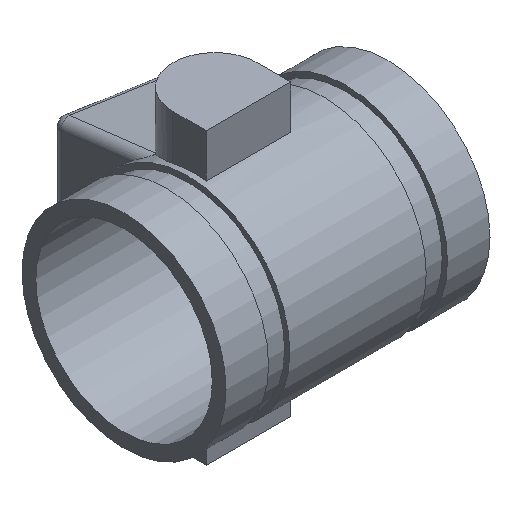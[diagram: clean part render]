
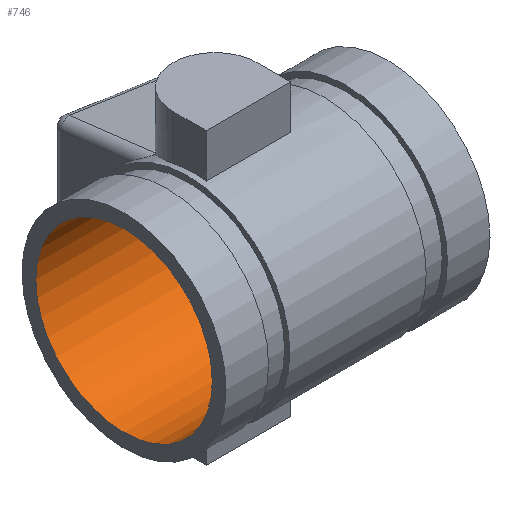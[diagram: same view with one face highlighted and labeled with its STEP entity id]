
A CAD part, isometric view. The second image highlights one B-rep face of the part: STEP entity #746.
In plain terms, the highlighted cylindrical face has radius 32.944 mm (diameter 65.888 mm), a full revolution.
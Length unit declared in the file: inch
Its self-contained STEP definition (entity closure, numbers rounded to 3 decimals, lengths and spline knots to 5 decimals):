
#89=LINE('',#1403,#127);
#127=VECTOR('',#1078,1.297);
#157=CYLINDRICAL_SURFACE('',#860,1.297);
#197=FACE_OUTER_BOUND('',#244,.T.);
#244=EDGE_LOOP('',(#655,#656,#657,#658,#659,#660));
#268=CIRCLE('',#828,1.297);
#269=CIRCLE('',#829,1.297);
#288=CIRCLE('',#858,1.297);
#289=CIRCLE('',#859,1.297);
#336=VERTEX_POINT('',#1343);
#337=VERTEX_POINT('',#1344);
#356=VERTEX_POINT('',#1398);
#357=VERTEX_POINT('',#1399);
#431=EDGE_CURVE('',#336,#337,#268,.T.);
#432=EDGE_CURVE('',#337,#336,#269,.T.);
#456=EDGE_CURVE('',#356,#357,#288,.T.);
#457=EDGE_CURVE('',#357,#356,#289,.T.);
#458=EDGE_CURVE('',#357,#337,#89,.T.);
#655=ORIENTED_EDGE('',*,*,#456,.T.);
#656=ORIENTED_EDGE('',*,*,#458,.T.);
#657=ORIENTED_EDGE('',*,*,#431,.F.);
#658=ORIENTED_EDGE('',*,*,#432,.F.);
#659=ORIENTED_EDGE('',*,*,#458,.F.);
#660=ORIENTED_EDGE('',*,*,#457,.T.);
#746=ADVANCED_FACE('',(#197),#157,.F.);
#828=AXIS2_PLACEMENT_3D('',#1345,#1007,#1008);
#829=AXIS2_PLACEMENT_3D('',#1346,#1009,#1010);
#858=AXIS2_PLACEMENT_3D('',#1400,#1072,#1073);
#859=AXIS2_PLACEMENT_3D('',#1401,#1074,#1075);
#860=AXIS2_PLACEMENT_3D('',#1402,#1076,#1077);
#1007=DIRECTION('center_axis',(1.,0.,0.));
#1008=DIRECTION('ref_axis',(0.,0.,-1.));
#1009=DIRECTION('center_axis',(1.,0.,0.));
#1010=DIRECTION('ref_axis',(0.,0.,-1.));
#1072=DIRECTION('center_axis',(1.,0.,0.));
#1073=DIRECTION('ref_axis',(0.,0.,-1.));
#1074=DIRECTION('center_axis',(1.,0.,0.));
#1075=DIRECTION('ref_axis',(0.,0.,-1.));
#1076=DIRECTION('center_axis',(1.,0.,0.));
#1077=DIRECTION('ref_axis',(0.,1.,0.));
#1078=DIRECTION('',(-1.,0.,0.));
#1343=CARTESIAN_POINT('',(0.,1.297,0.));
#1344=CARTESIAN_POINT('',(0.,-1.297,0.));
#1345=CARTESIAN_POINT('Origin',(0.,0.,
0.));
#1346=CARTESIAN_POINT('Origin',(0.,0.,
0.));
#1398=CARTESIAN_POINT('',(3.88,1.297,0.));
#1399=CARTESIAN_POINT('',(3.88,-1.297,0.));
#1400=CARTESIAN_POINT('Origin',(3.88,0.,0.));
#1401=CARTESIAN_POINT('Origin',(3.88,0.,0.));
#1402=CARTESIAN_POINT('Origin',(1.94,0.,0.));
#1403=CARTESIAN_POINT('',(1.94,-1.297,0.));
